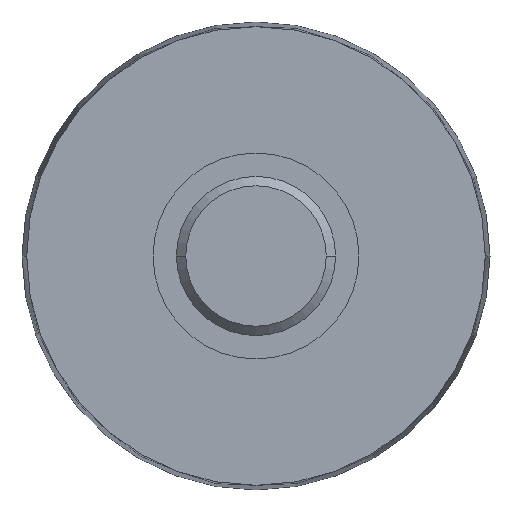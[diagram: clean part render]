
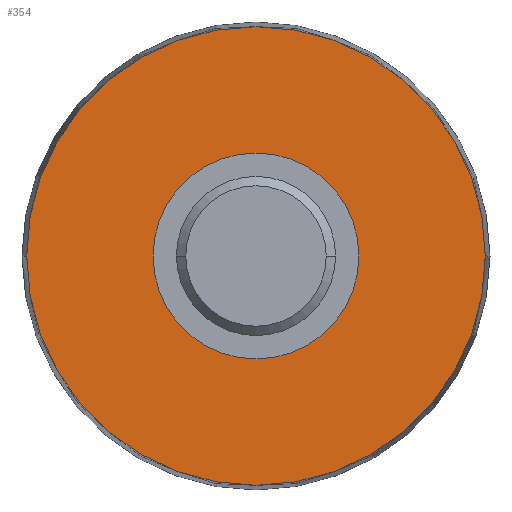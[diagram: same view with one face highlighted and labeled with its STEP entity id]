
A CAD part, left-side view. The second image highlights one B-rep face of the part: STEP entity #354.
In plain terms, the highlighted planar face has unit normal (-1, 0, 0).
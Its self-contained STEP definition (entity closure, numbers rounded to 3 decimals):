
#44 = CARTESIAN_POINT ( 'NONE',  ( 24.5, -11., 0. ) ) ;
#78 = CARTESIAN_POINT ( 'NONE',  ( 24.5, 24.5, 0. ) ) ;
#95 = CIRCLE ( 'NONE', #123, 24.5 ) ;
#99 = CARTESIAN_POINT ( 'NONE',  ( 24.5, 0., 0. ) ) ;
#108 = DIRECTION ( 'NONE',  ( 0., -1., 0. ) ) ;
#109 = DIRECTION ( 'NONE',  ( -1., 0., 0. ) ) ;
#123 = AXIS2_PLACEMENT_3D ( 'NONE', #99, #109, #108 ) ;
#166 = VERTEX_POINT ( 'NONE', #44 ) ;
#185 = EDGE_CURVE ( 'NONE', #290, #287, #95, .T. ) ;
#196 = ORIENTED_EDGE ( 'NONE', *, *, #352, .F. ) ;
#269 = VERTEX_POINT ( 'NONE', #439 ) ;
#287 = VERTEX_POINT ( 'NONE', #78 ) ;
#290 = VERTEX_POINT ( 'NONE', #438 ) ;
#307 = EDGE_CURVE ( 'NONE', #166, #269, #689, .T. ) ;
#323 = EDGE_LOOP ( 'NONE', ( #375, #196 ) ) ;
#325 = EDGE_LOOP ( 'NONE', ( #371, #345 ) ) ;
#344 = EDGE_CURVE ( 'NONE', #287, #290, #557, .T. ) ;
#345 = ORIENTED_EDGE ( 'NONE', *, *, #185, .T. ) ;
#352 = EDGE_CURVE ( 'NONE', #269, #166, #550, .T. ) ;
#354 = ADVANCED_FACE ( 'NONE', ( #559, #542 ), #558, .F. ) ;
#371 = ORIENTED_EDGE ( 'NONE', *, *, #344, .T. ) ;
#375 = ORIENTED_EDGE ( 'NONE', *, *, #307, .F. ) ;
#438 = CARTESIAN_POINT ( 'NONE',  ( 24.5, -24.5, 0. ) ) ;
#439 = CARTESIAN_POINT ( 'NONE',  ( 24.5, 11., 0. ) ) ;
#539 = DIRECTION ( 'NONE',  ( 0., -1., 0. ) ) ;
#540 = DIRECTION ( 'NONE',  ( -1., 0., 0. ) ) ;
#541 = CARTESIAN_POINT ( 'NONE',  ( 24.5, 0., 0. ) ) ;
#542 = FACE_OUTER_BOUND ( 'NONE', #325, .T. ) ;
#543 = CARTESIAN_POINT ( 'NONE',  ( 24.5, 24.5, 0. ) ) ;
#545 = AXIS2_PLACEMENT_3D ( 'NONE', #541, #540, #539 ) ;
#546 = DIRECTION ( 'NONE',  ( 1., 0., 0. ) ) ;
#549 = AXIS2_PLACEMENT_3D ( 'NONE', #543, #546, #587 ) ;
#550 = CIRCLE ( 'NONE', #545, 11. ) ;
#554 = DIRECTION ( 'NONE',  ( 0., -1., 0. ) ) ;
#555 = DIRECTION ( 'NONE',  ( -1., 0., 0. ) ) ;
#556 = AXIS2_PLACEMENT_3D ( 'NONE', #566, #555, #554 ) ;
#557 = CIRCLE ( 'NONE', #556, 24.5 ) ;
#558 = PLANE ( 'NONE',  #549 ) ;
#559 = FACE_BOUND ( 'NONE', #323, .T. ) ;
#566 = CARTESIAN_POINT ( 'NONE',  ( 24.5, 0., 0. ) ) ;
#587 = DIRECTION ( 'NONE',  ( 0., 1., 0. ) ) ;
#686 = CARTESIAN_POINT ( 'NONE',  ( 24.5, 0., 0. ) ) ;
#687 = DIRECTION ( 'NONE',  ( 0., -1., 0. ) ) ;
#688 = AXIS2_PLACEMENT_3D ( 'NONE', #686, #690, #687 ) ;
#689 = CIRCLE ( 'NONE', #688, 11. ) ;
#690 = DIRECTION ( 'NONE',  ( -1., 0., 0. ) ) ;
